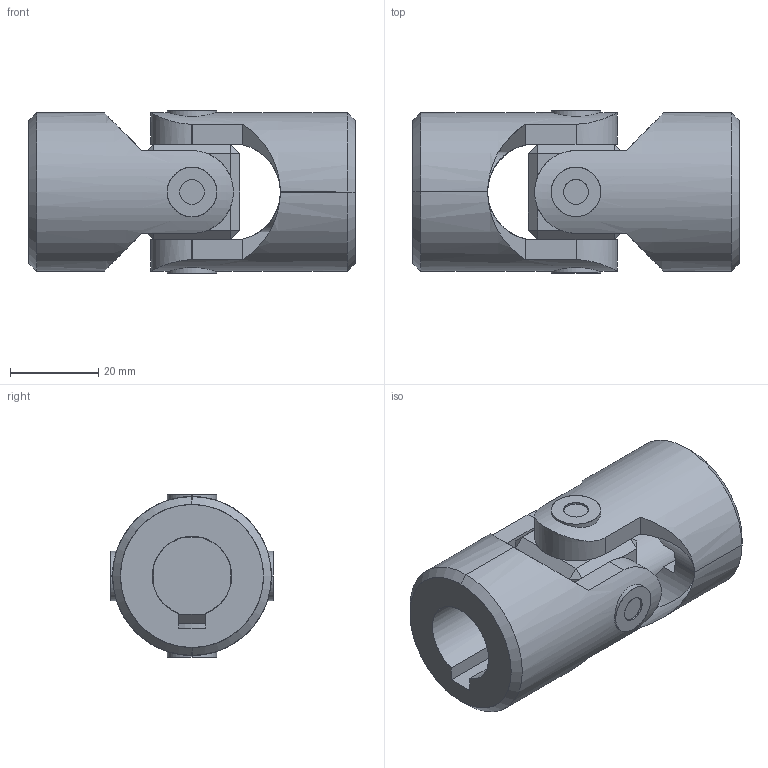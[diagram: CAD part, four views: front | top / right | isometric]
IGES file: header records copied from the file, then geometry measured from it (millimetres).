
Start section: SolidWorks IGES file using analytic representation for surfaces
Global section: file name: C:\Users\IanO\Desktop\R3690_v2\R3690_v2_20231020_IGES\R3690.018-KW.igs; native system: SolidWorks 2019; preprocessor: SolidWorks 2019; author: IanO; date: 231020.152510; units: millimetre
Bounding box: 74 x 36.72 x 36.72 mm (x, y, z)
Surface area: 20307.8 mm2 (no closed solid volume)
Topology: 0 solids, 0 shells, 110 faces, 2296 edges, 2296 vertices
Faces by surface type: bspline 62, revolution 48
